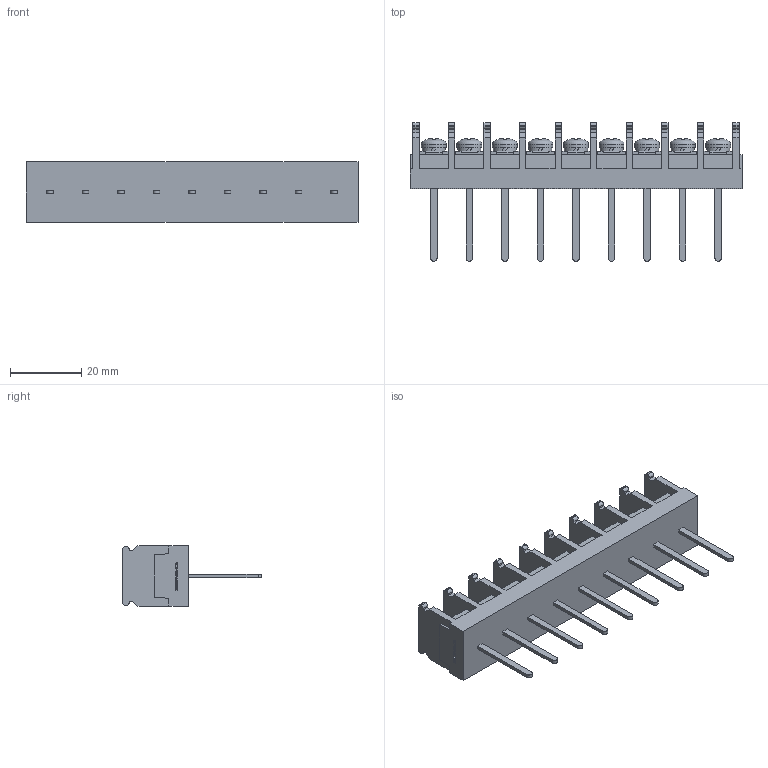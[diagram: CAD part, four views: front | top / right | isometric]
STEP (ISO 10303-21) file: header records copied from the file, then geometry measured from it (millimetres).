
FILE_DESCRIPTION(/* description */ ('Alibre Inc.'),/* implementation_level */ '2;1');
FILE_NAME(/* name */ 'export0',/* time_stamp */ '2015-10-17T17:25:13+09:00',/* author */ (''),/* organization */ (''),/* preprocessor_version */ 'ST-DEVELOPER v14',/* originating_system */ 'Alibre',/* authorisation */ '');
FILE_SCHEMA (('CONFIG_CONTROL_DESIGN'));
Length unit declared in the file: centimetre
Products named in the file (1): ID_1
Bounding box: 93.4 x 39 x 17 mm (x, y, z)
Volume: 18096.9 mm3; surface area: 11243.6 mm2
Topology: 1 solids, 17 shells, 1011 faces, 2763 edges, 1833 vertices
Faces by surface type: plane 750, bspline 104, cylinder 94, cone 36, torus 18, sphere 9
Full cylindrical faces by diameter (mm): 4 x9, 6.5 x9, 7 x9
Entity records: 30963 total; most frequent: CARTESIAN_POINT 6740, ORIENTED_EDGE 5400, DIRECTION 3942, EDGE_CURVE 2700, VECTOR 1962, LINE 1962, VERTEX_POINT 1806, AXIS2_PLACEMENT_3D 1364
